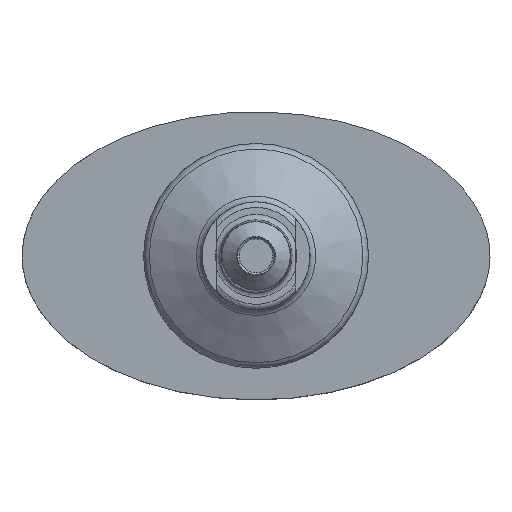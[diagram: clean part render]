
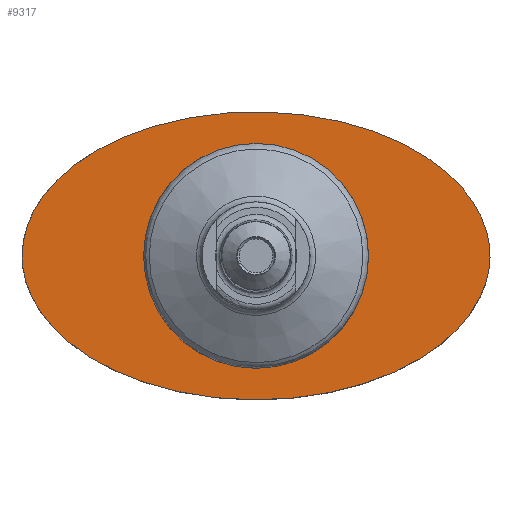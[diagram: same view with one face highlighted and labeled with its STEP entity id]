
A CAD part, front view. The second image highlights one B-rep face of the part: STEP entity #9317.
In plain terms, the highlighted planar face has unit normal (0, -1, 0).
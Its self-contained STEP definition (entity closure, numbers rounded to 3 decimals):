
#80 = EDGE_LOOP ( 'NONE', ( #762 ) ) ;
#525 = CIRCLE ( 'NONE', #10718, 15.875 ) ;
#762 = ORIENTED_EDGE ( 'NONE', *, *, #20208, .F. ) ;
#2890 = EDGE_CURVE ( 'NONE', #4075, #4075, #525, .T. ) ;
#3927 = EDGE_LOOP ( 'NONE', ( #33275 ) ) ;
#4075 = VERTEX_POINT ( 'NONE', #4583 ) ;
#4583 = CARTESIAN_POINT ( 'NONE',  ( 32.972, 3.787, 69.455 ) ) ;
#6040 = AXIS2_PLACEMENT_3D ( 'NONE', #29788, #32998, #14960 ) ;
#6651 = DIRECTION ( 'NONE',  ( 0., 0., 1. ) ) ;
#9317 = ADVANCED_FACE ( 'Defeatured_2_85', ( #13959, #21691 ), #31974, .F. ) ;
#9629 = CARTESIAN_POINT ( 'NONE',  ( 32.972, 3.787, 53.58 ) ) ;
#10714 = CARTESIAN_POINT ( 'NONE',  ( -0.048, 3.787, 53.58 ) ) ;
#10718 = AXIS2_PLACEMENT_3D ( 'NONE', #9629, #14341, #6651 ) ;
#11374 = CARTESIAN_POINT ( 'NONE',  ( -0.048, 3.787, 53.58 ) ) ;
#11873 = CARTESIAN_POINT ( 'NONE',  ( 65.992, 3.787, 53.58 ) ) ;
#13959 = FACE_BOUND ( 'NONE', #3927, .T. ) ;
#14341 = DIRECTION ( 'NONE',  ( 0., -1., 0. ) ) ;
#14960 = DIRECTION ( 'NONE',  ( 0., 0., 1. ) ) ;
#17472 =( BOUNDED_CURVE ( )  B_SPLINE_CURVE ( 3, ( #11374, #18978, #21798, #11873, #29737, #27227, #19617 ),
 .UNSPECIFIED., .T., .F. ) 
 B_SPLINE_CURVE_WITH_KNOTS ( ( 4, 3, 4 ),
 ( 0., 3.142, 6.283 ),
 .UNSPECIFIED. ) 
 CURVE ( )  GEOMETRIC_REPRESENTATION_ITEM ( )  RATIONAL_B_SPLINE_CURVE ( ( 1., 0.333, 0.333, 1., 0.333, 0.333, 1. ) ) 
 REPRESENTATION_ITEM ( '' )  );
#18486 = VERTEX_POINT ( 'NONE', #10714 ) ;
#18978 = CARTESIAN_POINT ( 'NONE',  ( -0.048, 3.787, 94.22 ) ) ;
#19617 = CARTESIAN_POINT ( 'NONE',  ( -0.048, 3.787, 53.58 ) ) ;
#20208 = EDGE_CURVE ( 'NONE', #18486, #18486, #17472, .T. ) ;
#21691 = FACE_OUTER_BOUND ( 'NONE', #80, .T. ) ;
#21798 = CARTESIAN_POINT ( 'NONE',  ( 65.992, 3.787, 94.22 ) ) ;
#27227 = CARTESIAN_POINT ( 'NONE',  ( -0.048, 3.787, 12.94 ) ) ;
#29737 = CARTESIAN_POINT ( 'NONE',  ( 65.992, 3.787, 12.94 ) ) ;
#29788 = CARTESIAN_POINT ( 'NONE',  ( 32.972, 3.787, 53.58 ) ) ;
#31974 = PLANE ( 'NONE',  #6040 ) ;
#32998 = DIRECTION ( 'NONE',  ( 0., 1., 0. ) ) ;
#33275 = ORIENTED_EDGE ( 'NONE', *, *, #2890, .F. ) ;
